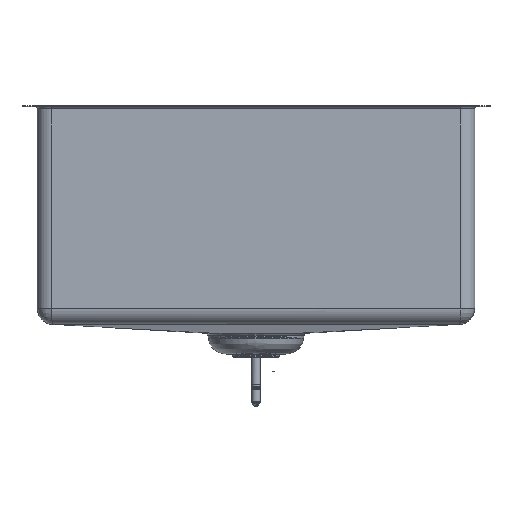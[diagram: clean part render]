
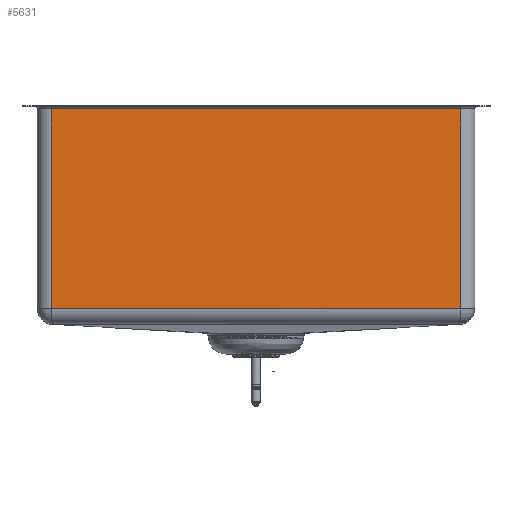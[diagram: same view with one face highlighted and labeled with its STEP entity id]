
A CAD part, front view. The second image highlights one B-rep face of the part: STEP entity #5631.
In plain terms, the highlighted planar face has unit normal (0, -1, 0) as drawn and (1, 0, 0) by its records, which use the part's own axes.
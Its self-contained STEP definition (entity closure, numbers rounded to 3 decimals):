
#5631=ADVANCED_FACE('',(#6962),#24979,.T.);
#6962=FACE_OUTER_BOUND('',#8386,.T.);
#8386=EDGE_LOOP('',(#15877,#15878,#15879,#15880));
#15877=ORIENTED_EDGE('',*,*,#19654,.T.);
#15878=ORIENTED_EDGE('',*,*,#19716,.F.);
#15879=ORIENTED_EDGE('',*,*,#19713,.F.);
#15880=ORIENTED_EDGE('',*,*,#19717,.T.);
#19654=EDGE_CURVE('',#24261,#24263,#21749,.T.);
#19713=EDGE_CURVE('',#24294,#24293,#21774,.T.);
#19716=EDGE_CURVE('',#24293,#24263,#21776,.T.);
#19717=EDGE_CURVE('',#24294,#24261,#21777,.T.);
#21749=B_SPLINE_CURVE_WITH_KNOTS('',1,(#68732,#68733),.UNSPECIFIED.,.F.,
 .F.,(2,2),(-376.,0.),.UNSPECIFIED.);
#21774=B_SPLINE_CURVE_WITH_KNOTS('',1,(#68878,#68879),.UNSPECIFIED.,.F.,
 .F.,(2,2),(0.,376.),.UNSPECIFIED.);
#21776=B_SPLINE_CURVE_WITH_KNOTS('',1,(#68885,#68886),.UNSPECIFIED.,.F.,
 .F.,(2,2),(0.,183.5),.UNSPECIFIED.);
#21777=B_SPLINE_CURVE_WITH_KNOTS('',1,(#68887,#68888),.UNSPECIFIED.,.F.,
 .F.,(2,2),(0.,183.5),.UNSPECIFIED.);
#24261=VERTEX_POINT('',#66233);
#24263=VERTEX_POINT('',#66235);
#24293=VERTEX_POINT('',#66265);
#24294=VERTEX_POINT('',#66266);
#24979=PLANE('',#27519);
#27519=AXIS2_PLACEMENT_3D('',#65762,#31557,$);
#31557=DIRECTION('',(1.,0.,0.));
#65762=CARTESIAN_POINT('',(206.,225.72,16.47));
#66233=CARTESIAN_POINT('',(206.,188.,-2.));
#66235=CARTESIAN_POINT('',(206.,-188.,-2.));
#66265=CARTESIAN_POINT('',(206.,-188.,-185.5));
#66266=CARTESIAN_POINT('',(206.,188.,-185.5));
#68732=CARTESIAN_POINT('',(206.,188.,-2.));
#68733=CARTESIAN_POINT('',(206.,-188.,-2.));
#68878=CARTESIAN_POINT('',(206.,188.,-185.5));
#68879=CARTESIAN_POINT('',(206.,-188.,-185.5));
#68885=CARTESIAN_POINT('',(206.,-188.,-185.5));
#68886=CARTESIAN_POINT('',(206.,-188.,-2.));
#68887=CARTESIAN_POINT('',(206.,188.,-185.5));
#68888=CARTESIAN_POINT('',(206.,188.,-2.));
